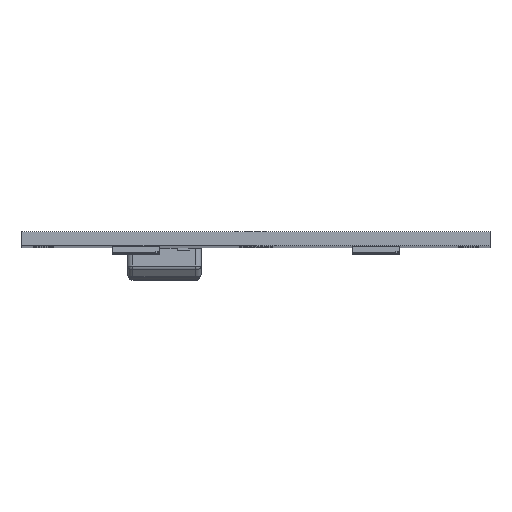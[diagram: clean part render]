
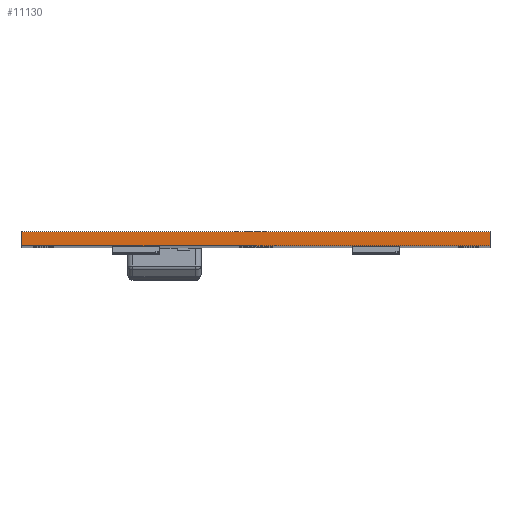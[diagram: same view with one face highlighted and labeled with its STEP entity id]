
A CAD part, top view. The second image highlights one B-rep face of the part: STEP entity #11130.
In plain terms, the highlighted planar face has unit normal (0, 0, 1).
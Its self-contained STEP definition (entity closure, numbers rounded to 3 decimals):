
#941=ORIENTED_EDGE('',*,*,#3273,.F.);
#942=ORIENTED_EDGE('',*,*,#3325,.F.);
#943=ORIENTED_EDGE('',*,*,#3321,.T.);
#944=ORIENTED_EDGE('',*,*,#3323,.T.);
#3273=EDGE_CURVE('',#4476,#4477,#5237,.T.);
#3321=EDGE_CURVE('',#4525,#4524,#5257,.T.);
#3323=EDGE_CURVE('',#4524,#4477,#5259,.T.);
#3325=EDGE_CURVE('',#4525,#4476,#5261,.T.);
#4476=VERTEX_POINT('',#14176);
#4477=VERTEX_POINT('',#14178);
#4524=VERTEX_POINT('',#14283);
#4525=VERTEX_POINT('',#14285);
#5237=LINE('',#14177,#5889);
#5257=LINE('',#14284,#5909);
#5259=LINE('',#14288,#5911);
#5261=LINE('',#14291,#5913);
#5889=VECTOR('',#12256,1000.);
#5909=VECTOR('',#12354,1000.);
#5911=VECTOR('',#12358,1000.);
#5913=VECTOR('',#12362,1000.);
#6554=EDGE_LOOP('',(#941,#942,#943,#944));
#7086=FACE_BOUND('',#6554,.T.);
#7566=PLANE('',#11638);
#11130=ADVANCED_FACE('',(#7086),#7566,.T.);
#11638=AXIS2_PLACEMENT_3D('',#14290,#12360,#12361);
#12256=DIRECTION('',(-1.,0.,0.));
#12354=DIRECTION('',(-1.,0.,0.));
#12358=DIRECTION('',(0.,-1.,0.));
#12360=DIRECTION('',(0.,0.,1.));
#12361=DIRECTION('',(1.,0.,0.));
#12362=DIRECTION('',(0.,-1.,0.));
#14176=CARTESIAN_POINT('',(24.75,0.,60.7));
#14177=CARTESIAN_POINT('',(-24.75,0.,60.7));
#14178=CARTESIAN_POINT('',(-24.75,0.,60.7));
#14283=CARTESIAN_POINT('',(-24.75,1.5,60.7));
#14284=CARTESIAN_POINT('',(-24.75,1.5,60.7));
#14285=CARTESIAN_POINT('',(24.75,1.5,60.7));
#14288=CARTESIAN_POINT('',(-24.75,1.5,60.7));
#14290=CARTESIAN_POINT('',(-24.75,1.5,60.7));
#14291=CARTESIAN_POINT('',(24.75,1.5,60.7));
